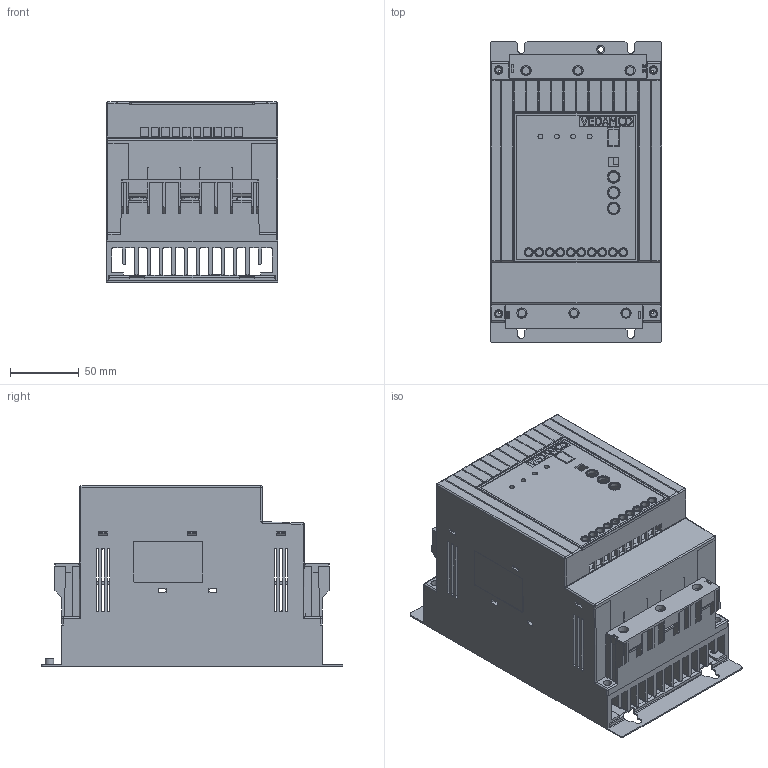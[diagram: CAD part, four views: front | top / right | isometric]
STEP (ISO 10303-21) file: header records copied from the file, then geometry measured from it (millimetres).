
FILE_DESCRIPTION(/* description */ (''),/* implementation_level */ '2;1');
FILE_NAME(/* name */ 'O:\БЭМ\Personal\Абрамов\262-20-1 ТП Драчево\3D Inventor\MCD1\Адаптированные\C3.stp',/* time_stamp */ '2023-10-04T07:34:14+03:00',/* author */ ('a.abramov'),/* organization */ (''),/* preprocessor_version */ 'ST-DEVELOPER v18.1',/* originating_system */ 'Autodesk Inventor 2022',/* authorisation */ '');
FILE_SCHEMA (('AUTOMOTIVE_DESIGN { 1 0 10303 214 3 1 1 }'));
Products named in the file (1): C3
Bounding box: 125 x 220 x 131.7 mm (x, y, z)
Volume: 579718.2 mm3; surface area: 479314.8 mm2
Topology: 1 solids, 7 shells, 2697 faces, 7807 edges, 5099 vertices
Faces by surface type: plane 2206, cylinder 266, cone 167, bspline 46, sphere 10, torus 2
Full cylindrical faces by diameter (mm): 2.6 x6, 3 x9, 4 x5, 4.2 x4, 4.5 x4, 4.6 x5, 5 x5, 5.5 x5, 6 x1
Entity records: 92679 total; most frequent: CARTESIAN_POINT 18185, ORIENTED_EDGE 15598, DIRECTION 13789, EDGE_CURVE 7799, LINE 6579, VECTOR 6579, VERTEX_POINT 5099, AXIS2_PLACEMENT_3D 3605
